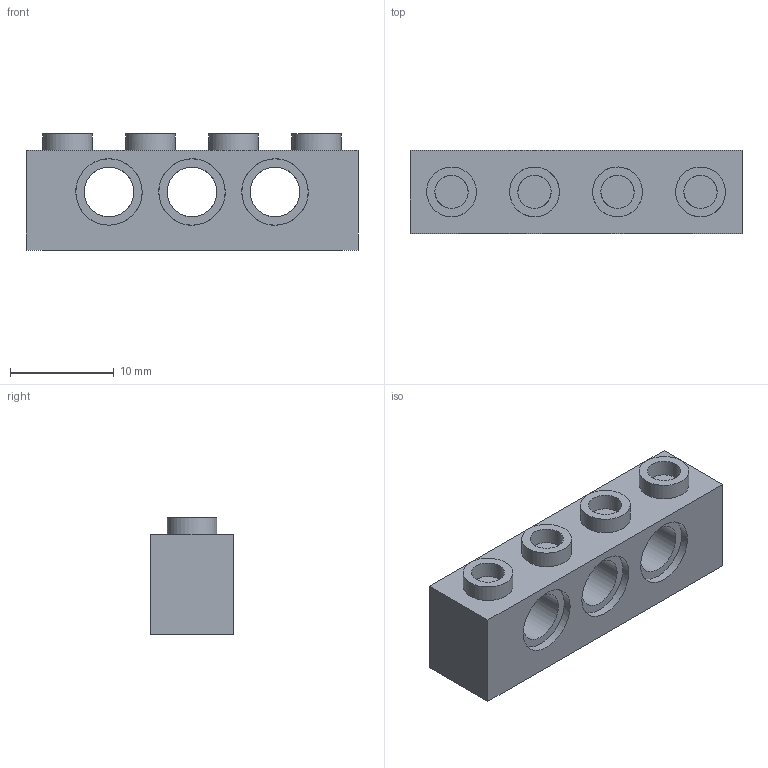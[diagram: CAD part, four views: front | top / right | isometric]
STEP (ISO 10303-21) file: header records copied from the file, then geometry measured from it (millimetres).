
FILE_DESCRIPTION(('Open CASCADE Model'),'2;1');
FILE_NAME('Open CASCADE Shape Model','2026-10-23T18:12:20',('Author'),( 'Open CASCADE'),'Open CASCADE STEP processor 7.9','Open CASCADE 7.9' ,'Unknown');
FILE_SCHEMA(('AUTOMOTIVE_DESIGN { 1 0 10303 214 1 1 1 1 }'));
Length unit declared in the file: millimetre
Products named in the file (1): Open CASCADE STEP translator 7.9 2
Bounding box: 32 x 8 x 11.2 mm (x, y, z)
Volume: 1427.4 mm3; surface area: 2267.4 mm2
Topology: 1 solids, 1 shells, 146 faces, 423 edges, 294 vertices
Faces by surface type: plane 98, bspline 24, cylinder 24
Full cylindrical faces by diameter (mm): 4.8 x7, 6.4 x2
Entity records: 17347 total; most frequent: CARTESIAN_POINT 9970, DIRECTION 1034, ORIENTED_EDGE 846, PCURVE 846, DEFINITIONAL_REPRESENTATION 846, B_SPLINE_CURVE_WITH_KNOTS 566, LINE 519, VECTOR 519
